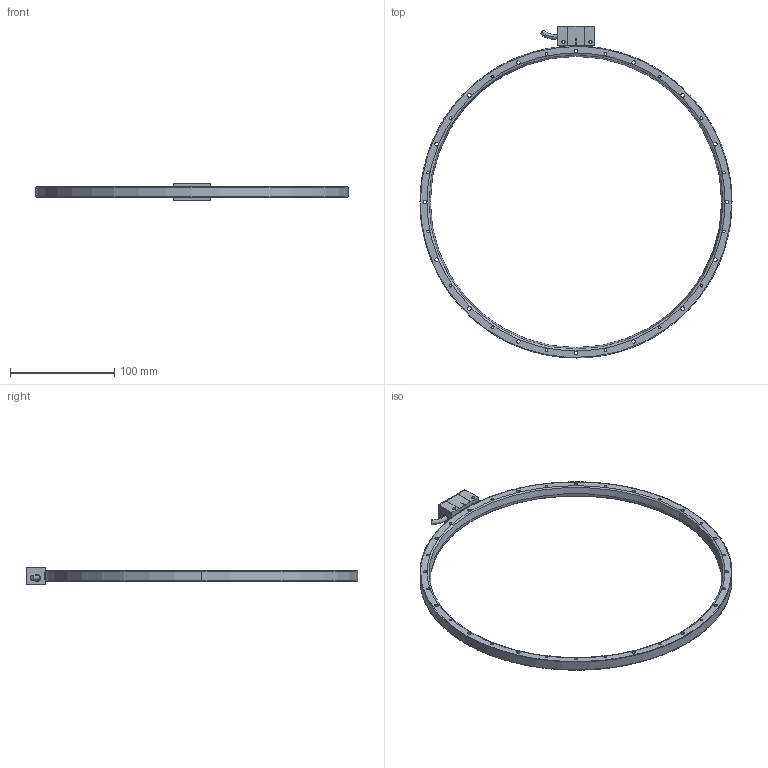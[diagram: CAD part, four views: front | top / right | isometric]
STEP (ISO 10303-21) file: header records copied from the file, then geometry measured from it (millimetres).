
FILE_DESCRIPTION (( 'STEP AP214' ), '1' );
FILE_NAME ('橈勤硉埴掑300郪磁.STEP', '2021-10-13T08:12:16', ( '' ), ( '' ), 'SwSTEP 2.0', 'SolidWorks 2016', '' );
FILE_SCHEMA (( 'AUTOMOTIVE_DESIGN' ));
Length unit declared in the file: millimetre
Products named in the file (3): 埴嫖掑馱璃_300_1; 橈勤硉埴掑300郪磁; 橈勤硉俋倛_3
Assembly tree (2 placements, depth 2):
  橈勤硉埴掑300郪磁
    橈勤硉俋倛_3
    埴嫖掑馱璃_300_1
Bounding box: 300 x 319.2 x 16.5 mm (x, y, z)
Volume: 91375.4 mm3; surface area: 42751.7 mm2
Topology: 6 solids, 6 shells, 280 faces, 720 edges, 473 vertices
Faces by surface type: cylinder 176, plane 88, cone 10, bspline 6
Entity records: 12938 total; most frequent: CARTESIAN_POINT 2456, DIRECTION 1638, ORIENTED_EDGE 1432, EDGE_CURVE 716, AXIS2_PLACEMENT_3D 671, VERTEX_POINT 473, CIRCLE 392, EDGE_LOOP 379
